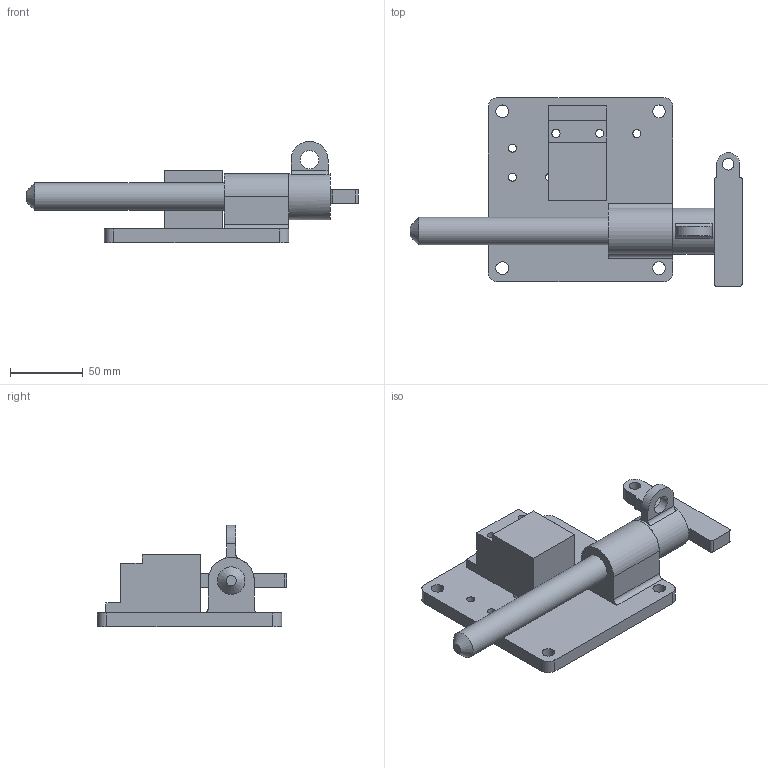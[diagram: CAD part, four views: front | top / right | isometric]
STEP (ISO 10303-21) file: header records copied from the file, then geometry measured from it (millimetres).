
FILE_DESCRIPTION(/* description */ (''),/* implementation_level */ '2;1');
FILE_NAME(/* name */ 'C:\Users\rcarver\Desktop\Tru-LOK pin\GM\With Switch\SP19Y175TR00200.stp',/* time_stamp */ '2016-06-24T13:27:38-04:00',/* author */ ('rcarver'),/* organization */ (''),/* preprocessor_version */ 'ST-DEVELOPER v16.5',/* originating_system */ 'Autodesk Inventor 2017',/* authorisation */ '');
FILE_SCHEMA (('AUTOMOTIVE_DESIGN { 1 0 10303 214 3 1 1 }'));
Length unit declared in the file: millimetre
Products named in the file (1): SP19Y175TR00200
Bounding box: 228.62 x 130.18 x 69.85 mm (x, y, z)
Volume: 362595.6 mm3; surface area: 75354.6 mm2
Topology: 3 solids, 3 shells, 69 faces, 192 edges, 131 vertices
Faces by surface type: plane 37, cylinder 31, cone 1
Full cylindrical faces by diameter (mm): 5.588 x2, 5.59 x6, 7.94 x1, 8.74 x4, 12.7 x1, 19 x1, 31.75 x1
Entity records: 2178 total; most frequent: DIRECTION 368, CARTESIAN_POINT 346, ORIENTED_EDGE 320, EDGE_CURVE 160, AXIS2_PLACEMENT_3D 138, EDGE_LOOP 116, VERTEX_POINT 116, LINE 92
